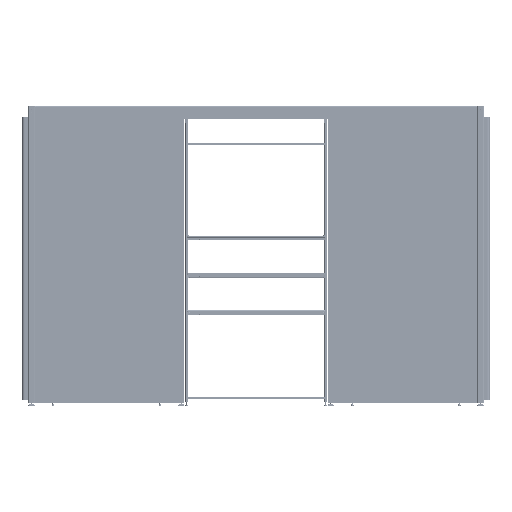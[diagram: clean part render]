
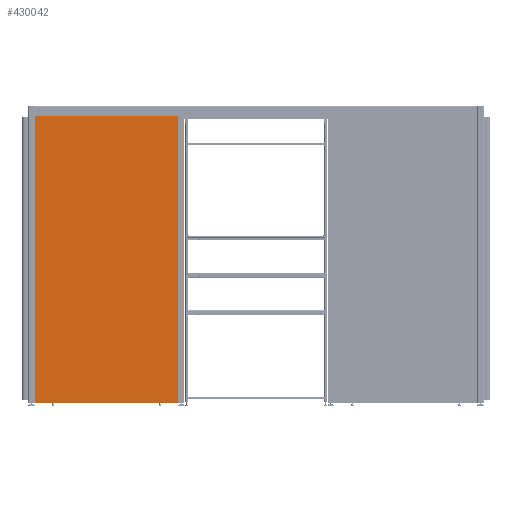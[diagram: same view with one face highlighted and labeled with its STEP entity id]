
A CAD part, left-side view. The second image highlights one B-rep face of the part: STEP entity #430042.
In plain terms, the highlighted planar face has unit normal (-1, 0, 0).
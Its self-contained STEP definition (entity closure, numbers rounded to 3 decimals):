
#190 = PLANE ( 'NONE',  #292035 ) ;
#6176 = FACE_OUTER_BOUND ( 'NONE', #576137, .T. ) ;
#12420 = EDGE_CURVE ( 'NONE', #211780, #100815, #514926, .T. ) ;
#50616 = ORIENTED_EDGE ( 'NONE', *, *, #12420, .F. ) ;
#69433 = CARTESIAN_POINT ( 'NONE',  ( -10189.5, -5423.5, 2707.172 ) ) ;
#78651 = VECTOR ( 'NONE', #257407, 1000. ) ;
#85022 = VERTEX_POINT ( 'NONE', #69433 ) ;
#88548 = VECTOR ( 'NONE', #553083, 1000. ) ;
#100376 = DIRECTION ( 'NONE',  ( 0., -1., 0. ) ) ;
#100815 = VERTEX_POINT ( 'NONE', #294445 ) ;
#114074 = CARTESIAN_POINT ( 'NONE',  ( -10189.5, -4089.5, 25. ) ) ;
#183849 = CARTESIAN_POINT ( 'NONE',  ( -10189.5, -4087.5, 2707.172 ) ) ;
#186391 = CARTESIAN_POINT ( 'NONE',  ( -10189.5, -4087.5, 2943.55 ) ) ;
#186872 = LINE ( 'NONE', #183849, #88548 ) ;
#211780 = VERTEX_POINT ( 'NONE', #444651 ) ;
#222807 = ORIENTED_EDGE ( 'NONE', *, *, #242303, .T. ) ;
#238110 = DIRECTION ( 'NONE',  ( 0., 0., 1. ) ) ;
#242303 = EDGE_CURVE ( 'NONE', #211780, #394877, #329192, .T. ) ;
#243716 = CARTESIAN_POINT ( 'NONE',  ( -10189.5, -4087.5, 27. ) ) ;
#257407 = DIRECTION ( 'NONE',  ( 0., 0., 1. ) ) ;
#260292 = VECTOR ( 'NONE', #238110, 1000. ) ;
#292035 = AXIS2_PLACEMENT_3D ( 'NONE', #186391, #503866, #372430 ) ;
#293002 = EDGE_CURVE ( 'NONE', #100815, #85022, #186872, .T. ) ;
#294445 = CARTESIAN_POINT ( 'NONE',  ( -10189.5, -4089.5, 2707.172 ) ) ;
#329192 = LINE ( 'NONE', #243716, #492835 ) ;
#329595 = CARTESIAN_POINT ( 'NONE',  ( -10189.5, -5423.5, 25. ) ) ;
#363370 = ORIENTED_EDGE ( 'NONE', *, *, #293002, .F. ) ;
#372430 = DIRECTION ( 'NONE',  ( 0., -1., 0. ) ) ;
#394877 = VERTEX_POINT ( 'NONE', #565447 ) ;
#409894 = LINE ( 'NONE', #329595, #260292 ) ;
#430042 = ADVANCED_FACE ( 'NONE', ( #6176 ), #190, .T. ) ;
#444651 = CARTESIAN_POINT ( 'NONE',  ( -10189.5, -4089.5, 27. ) ) ;
#448460 = EDGE_CURVE ( 'NONE', #394877, #85022, #409894, .T. ) ;
#492835 = VECTOR ( 'NONE', #100376, 1000. ) ;
#503866 = DIRECTION ( 'NONE',  ( -1., 0., 0. ) ) ;
#514926 = LINE ( 'NONE', #114074, #78651 ) ;
#553083 = DIRECTION ( 'NONE',  ( 0., -1., 0. ) ) ;
#565447 = CARTESIAN_POINT ( 'NONE',  ( -10189.5, -5423.5, 27. ) ) ;
#576137 = EDGE_LOOP ( 'NONE', ( #222807, #583204, #363370, #50616 ) ) ;
#583204 = ORIENTED_EDGE ( 'NONE', *, *, #448460, .T. ) ;
